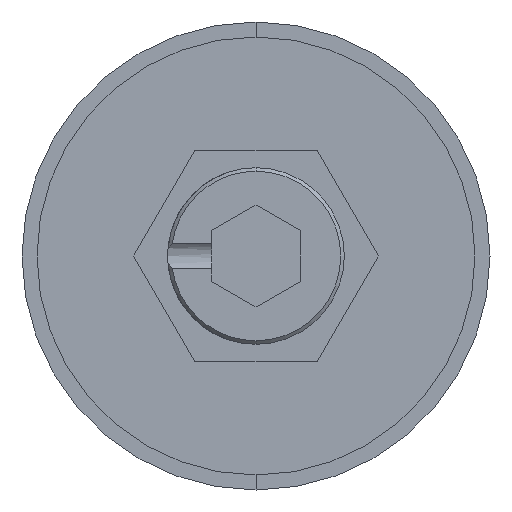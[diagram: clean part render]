
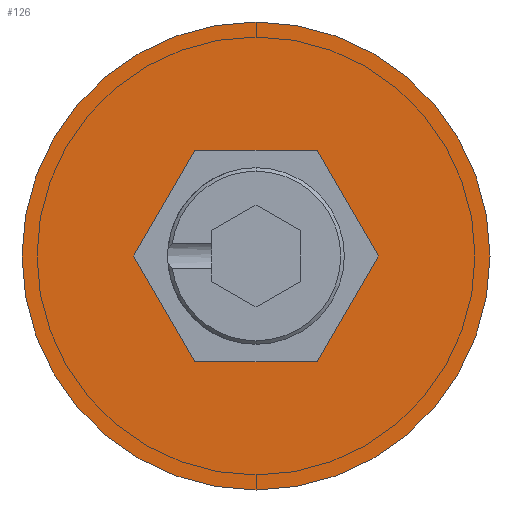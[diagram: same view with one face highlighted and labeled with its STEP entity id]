
A CAD part, front view. The second image highlights one B-rep face of the part: STEP entity #126.
In plain terms, the highlighted planar face has unit normal (0, -1, 0).
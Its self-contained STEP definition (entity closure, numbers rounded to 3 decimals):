
#9 = CARTESIAN_POINT ( 'NONE',  ( 6.928, 0., 0. ) ) ;
#23 = VECTOR ( 'NONE', #1697, 1000. ) ;
#27 = ORIENTED_EDGE ( 'NONE', *, *, #1900, .F. ) ;
#39 = CARTESIAN_POINT ( 'NONE',  ( -3.464, 0., 6. ) ) ;
#57 = DIRECTION ( 'NONE',  ( 0., 0., -1. ) ) ;
#114 = AXIS2_PLACEMENT_3D ( 'NONE', #183, #194, #203 ) ;
#121 = CARTESIAN_POINT ( 'NONE',  ( 0., 0., 13.25 ) ) ;
#126 = ADVANCED_FACE ( 'NONE', ( #1238, #839 ), #1850, .T. ) ;
#132 = EDGE_CURVE ( 'NONE', #487, #393, #1852, .T. ) ;
#135 = DIRECTION ( 'NONE',  ( -0.5, 0., 0.866 ) ) ;
#159 = VERTEX_POINT ( 'NONE', #168 ) ;
#168 = CARTESIAN_POINT ( 'NONE',  ( 0., 0., -13.25 ) ) ;
#180 = CARTESIAN_POINT ( 'NONE',  ( 0., 0., 0. ) ) ;
#183 = CARTESIAN_POINT ( 'NONE',  ( 0., 0., 0. ) ) ;
#194 = DIRECTION ( 'NONE',  ( 0., -1., 0. ) ) ;
#197 = DIRECTION ( 'NONE',  ( 0., -1., 0. ) ) ;
#203 = DIRECTION ( 'NONE',  ( 0., 0., -1. ) ) ;
#213 = CARTESIAN_POINT ( 'NONE',  ( 3.464, 0., 6. ) ) ;
#326 = CARTESIAN_POINT ( 'NONE',  ( -6.928, 0., 0. ) ) ;
#374 = VECTOR ( 'NONE', #1333, 1000. ) ;
#380 = EDGE_CURVE ( 'NONE', #1805, #2058, #771, .T. ) ;
#393 = VERTEX_POINT ( 'NONE', #213 ) ;
#449 = CARTESIAN_POINT ( 'NONE',  ( -3.464, 0., 6. ) ) ;
#465 = VECTOR ( 'NONE', #532, 1000. ) ;
#487 = VERTEX_POINT ( 'NONE', #927 ) ;
#513 = LINE ( 'NONE', #39, #1342 ) ;
#532 = DIRECTION ( 'NONE',  ( -1., 0., 0. ) ) ;
#556 = ORIENTED_EDGE ( 'NONE', *, *, #1609, .F. ) ;
#595 = EDGE_LOOP ( 'NONE', ( #940, #825 ) ) ;
#651 = VECTOR ( 'NONE', #1459, 1000. ) ;
#693 = DIRECTION ( 'NONE',  ( -0.5, 0., -0.866 ) ) ;
#771 = LINE ( 'NONE', #326, #23 ) ;
#774 = CIRCLE ( 'NONE', #114, 13.25 ) ;
#825 = ORIENTED_EDGE ( 'NONE', *, *, #1003, .T. ) ;
#839 = FACE_OUTER_BOUND ( 'NONE', #595, .T. ) ;
#853 = LINE ( 'NONE', #2160, #374 ) ;
#860 = VERTEX_POINT ( 'NONE', #1676 ) ;
#876 = LINE ( 'NONE', #897, #465 ) ;
#890 = ORIENTED_EDGE ( 'NONE', *, *, #1322, .F. ) ;
#897 = CARTESIAN_POINT ( 'NONE',  ( 3.464, 0., 6. ) ) ;
#920 = CARTESIAN_POINT ( 'NONE',  ( -3.464, 0., -6. ) ) ;
#927 = CARTESIAN_POINT ( 'NONE',  ( 6.928, 0., 0. ) ) ;
#940 = ORIENTED_EDGE ( 'NONE', *, *, #1303, .T. ) ;
#991 = VECTOR ( 'NONE', #135, 1000. ) ;
#1000 = VERTEX_POINT ( 'NONE', #121 ) ;
#1003 = EDGE_CURVE ( 'NONE', #1000, #159, #774, .T. ) ;
#1077 = CARTESIAN_POINT ( 'NONE',  ( -3.464, 0., -6. ) ) ;
#1105 = EDGE_CURVE ( 'NONE', #2058, #860, #1577, .T. ) ;
#1182 = AXIS2_PLACEMENT_3D ( 'NONE', #180, #197, #57 ) ;
#1238 = FACE_BOUND ( 'NONE', #1486, .T. ) ;
#1303 = EDGE_CURVE ( 'NONE', #159, #1000, #1392, .T. ) ;
#1322 = EDGE_CURVE ( 'NONE', #1548, #1805, #513, .T. ) ;
#1333 = DIRECTION ( 'NONE',  ( 0.5, 0., 0.866 ) ) ;
#1342 = VECTOR ( 'NONE', #693, 1000. ) ;
#1372 = ORIENTED_EDGE ( 'NONE', *, *, #380, .F. ) ;
#1392 = CIRCLE ( 'NONE', #1182, 13.25 ) ;
#1459 = DIRECTION ( 'NONE',  ( 1., 0., 0. ) ) ;
#1486 = EDGE_LOOP ( 'NONE', ( #2108, #1372, #890, #27, #2013, #556 ) ) ;
#1548 = VERTEX_POINT ( 'NONE', #449 ) ;
#1577 = LINE ( 'NONE', #1077, #651 ) ;
#1609 = EDGE_CURVE ( 'NONE', #860, #487, #853, .T. ) ;
#1676 = CARTESIAN_POINT ( 'NONE',  ( 3.464, 0., -6. ) ) ;
#1697 = DIRECTION ( 'NONE',  ( 0.5, 0., -0.866 ) ) ;
#1805 = VERTEX_POINT ( 'NONE', #1954 ) ;
#1830 = CARTESIAN_POINT ( 'NONE',  ( 0., 0., 0. ) ) ;
#1850 = PLANE ( 'NONE',  #1951 ) ;
#1852 = LINE ( 'NONE', #9, #991 ) ;
#1900 = EDGE_CURVE ( 'NONE', #393, #1548, #876, .T. ) ;
#1951 = AXIS2_PLACEMENT_3D ( 'NONE', #1830, #2064, #2128 ) ;
#1954 = CARTESIAN_POINT ( 'NONE',  ( -6.928, 0., 0. ) ) ;
#2013 = ORIENTED_EDGE ( 'NONE', *, *, #132, .F. ) ;
#2058 = VERTEX_POINT ( 'NONE', #920 ) ;
#2064 = DIRECTION ( 'NONE',  ( 0., -1., 0. ) ) ;
#2108 = ORIENTED_EDGE ( 'NONE', *, *, #1105, .F. ) ;
#2128 = DIRECTION ( 'NONE',  ( 0., 0., -1. ) ) ;
#2160 = CARTESIAN_POINT ( 'NONE',  ( 3.464, 0., -6. ) ) ;
